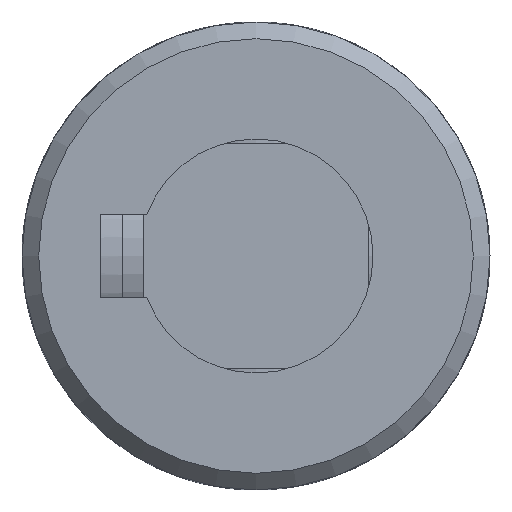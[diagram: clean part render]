
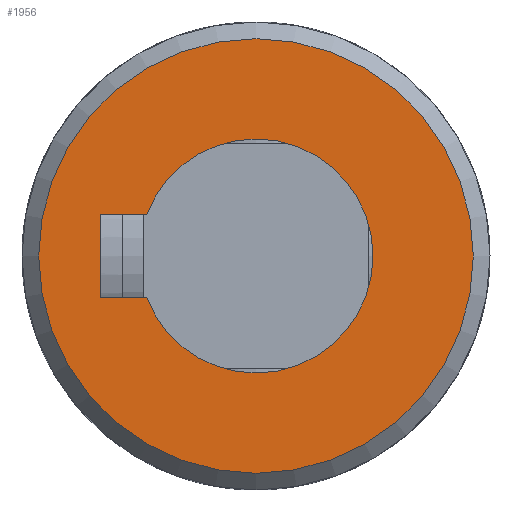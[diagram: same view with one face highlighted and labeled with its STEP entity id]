
A CAD part, front view. The second image highlights one B-rep face of the part: STEP entity #1956.
In plain terms, the highlighted planar face has unit normal (0, -1, 0).
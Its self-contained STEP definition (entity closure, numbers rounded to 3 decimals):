
#123=LINE('',#3575,#192);
#128=LINE('',#3592,#197);
#129=LINE('',#3605,#198);
#192=VECTOR('',#2521,2.762);
#197=VECTOR('',#2532,2.762);
#198=VECTOR('',#2535,5.);
#367=PLANE('',#2143);
#428=FACE_BOUND('',#685,.T.);
#523=FACE_OUTER_BOUND('',#684,.T.);
#684=EDGE_LOOP('',(#1633));
#685=EDGE_LOOP('',(#1634,#1635,#1636,#1637));
#809=CIRCLE('',#2131,7.);
#814=CIRCLE('',#2141,13.);
#959=VERTEX_POINT('',#3564);
#960=VERTEX_POINT('',#3566);
#962=VERTEX_POINT('',#3574);
#968=VERTEX_POINT('',#3590);
#970=VERTEX_POINT('',#3611);
#1193=EDGE_CURVE('',#960,#959,#809,.T.);
#1196=EDGE_CURVE('',#962,#960,#123,.T.);
#1204=EDGE_CURVE('',#959,#968,#128,.T.);
#1206=EDGE_CURVE('',#968,#962,#129,.T.);
#1209=EDGE_CURVE('',#970,#970,#814,.T.);
#1633=ORIENTED_EDGE('',*,*,#1209,.F.);
#1634=ORIENTED_EDGE('',*,*,#1204,.T.);
#1635=ORIENTED_EDGE('',*,*,#1206,.T.);
#1636=ORIENTED_EDGE('',*,*,#1196,.T.);
#1637=ORIENTED_EDGE('',*,*,#1193,.T.);
#1956=ADVANCED_FACE('',(#523,#428),#367,.F.);
#2131=AXIS2_PLACEMENT_3D('',#3567,#2516,#2517);
#2141=AXIS2_PLACEMENT_3D('',#3612,#2544,#2545);
#2143=AXIS2_PLACEMENT_3D('',#3788,#2552,#2553);
#2516=DIRECTION('center_axis',(0.,1.,0.));
#2517=DIRECTION('ref_axis',(-0.357,0.,0.934));
#2521=DIRECTION('',(0.,0.,1.));
#2532=DIRECTION('',(0.,0.,-1.));
#2535=DIRECTION('',(-1.,0.,0.));
#2544=DIRECTION('center_axis',(0.,1.,0.));
#2545=DIRECTION('ref_axis',(1.,0.,0.));
#2552=DIRECTION('center_axis',(0.,1.,0.));
#2553=DIRECTION('ref_axis',(0.,0.,1.));
#3564=CARTESIAN_POINT('',(2.5,-36.5,-6.538));
#3566=CARTESIAN_POINT('',(-2.5,-36.5,-6.538));
#3567=CARTESIAN_POINT('Origin',(0.,-36.5,0.));
#3574=CARTESIAN_POINT('',(-2.5,-36.5,-9.3));
#3575=CARTESIAN_POINT('',(-2.5,-36.5,-4.65));
#3590=CARTESIAN_POINT('',(2.5,-36.5,-9.3));
#3592=CARTESIAN_POINT('',(2.5,-36.5,-3.269));
#3605=CARTESIAN_POINT('',(1.25,-36.5,-9.3));
#3611=CARTESIAN_POINT('',(-13.,-36.5,0.));
#3612=CARTESIAN_POINT('Origin',(0.,-36.5,0.));
#3788=CARTESIAN_POINT('Origin',(0.,-36.5,0.));
